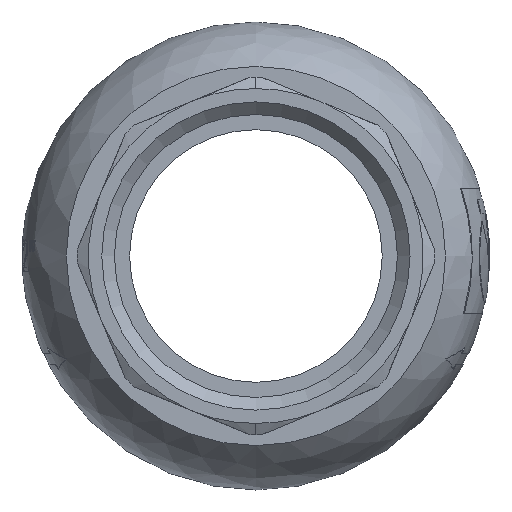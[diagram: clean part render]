
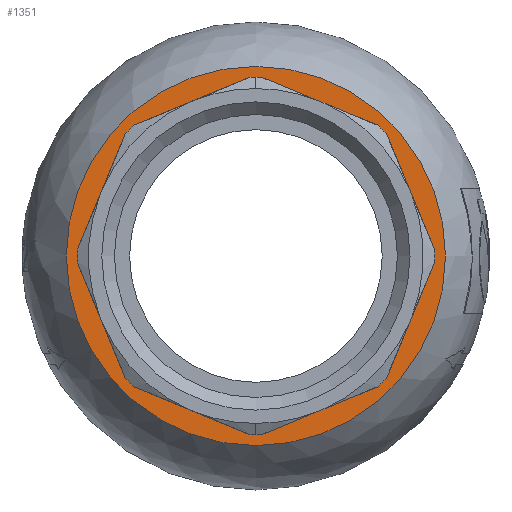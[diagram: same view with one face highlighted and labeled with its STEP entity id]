
A CAD part, left-side view. The second image highlights one B-rep face of the part: STEP entity #1351.
In plain terms, the highlighted planar face has unit normal (-1, 0, 0).
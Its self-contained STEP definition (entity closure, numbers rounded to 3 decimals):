
#1133=CARTESIAN_POINT('',(18.486,0.,30.017));
#1134=VERTEX_POINT('',#1133);
#1141=CARTESIAN_POINT('',(18.486,0.,-30.017));
#1142=VERTEX_POINT('',#1141);
#1143=CARTESIAN_POINT('',(18.486,0.,0.));
#1144=DIRECTION('',(1.,-0.,-0.));
#1145=DIRECTION('',(0.,0.,1.));
#1146=AXIS2_PLACEMENT_3D('',#1143,#1144,#1145);
#1147=CIRCLE('',#1146,30.017);
#1148=EDGE_CURVE('',#1134,#1142,#1147,.T.);
#1150=CARTESIAN_POINT('',(18.486,0.,0.));
#1151=DIRECTION('',(1.,-0.,-0.));
#1152=DIRECTION('',(0.,0.,1.));
#1153=AXIS2_PLACEMENT_3D('',#1150,#1151,#1152);
#1154=CIRCLE('',#1153,30.017);
#1155=EDGE_CURVE('',#1142,#1134,#1154,.T.);
#1186=CARTESIAN_POINT('',(18.486,0.,30.017));
#1187=DIRECTION('',(-1.,0.,0.));
#1188=DIRECTION('',(0.,-1.,0.));
#1189=AXIS2_PLACEMENT_3D('',#1186,#1187,#1188);
#1190=PLANE('',#1189);
#1191=ORIENTED_EDGE('',*,*,#1148,.F.);
#1192=ORIENTED_EDGE('',*,*,#1155,.F.);
#1193=EDGE_LOOP('',(#1191,#1192));
#1194=FACE_BOUND('',#1193,.T.);
#1195=CARTESIAN_POINT('',(18.486,-0.95,-28.29));
#1196=VERTEX_POINT('',#1195);
#1197=CARTESIAN_POINT('',(18.486,-0.,-28.306));
#1198=VERTEX_POINT('',#1197);
#1199=CARTESIAN_POINT('',(18.486,-0.95,-28.29));
#1200=CARTESIAN_POINT('',(18.486,-0.317,-28.311));
#1201=CARTESIAN_POINT('',(18.486,0.317,-28.311));
#1202=CARTESIAN_POINT('',(18.486,0.95,-28.29));
#1203=B_SPLINE_CURVE_WITH_KNOTS('',3,(#1199,#1200,#1201,#1202),.UNSPECIFIED.,.F.,.F.,(4,4),(268.077,271.923),.UNSPECIFIED.);
#1204=EDGE_CURVE('',#1196,#1198,#1203,.T.);
#1205=ORIENTED_EDGE('',*,*,#1204,.T.);
#1206=CARTESIAN_POINT('',(18.486,0.95,-28.29));
#1207=VERTEX_POINT('',#1206);
#1208=CARTESIAN_POINT('',(18.486,-0.95,-28.29));
#1209=CARTESIAN_POINT('',(18.486,-0.317,-28.311));
#1210=CARTESIAN_POINT('',(18.486,0.317,-28.311));
#1211=CARTESIAN_POINT('',(18.486,0.95,-28.29));
#1212=B_SPLINE_CURVE_WITH_KNOTS('',3,(#1208,#1209,#1210,#1211),.UNSPECIFIED.,.F.,.F.,(4,4),(268.077,271.923),.UNSPECIFIED.);
#1213=EDGE_CURVE('',#1198,#1207,#1212,.T.);
#1214=ORIENTED_EDGE('',*,*,#1213,.T.);
#1215=CARTESIAN_POINT('',(18.486,19.333,-20.676));
#1216=VERTEX_POINT('',#1215);
#1217=CARTESIAN_POINT('',(18.486,19.333,-20.676));
#1218=DIRECTION('',(-0.,-0.924,-0.383));
#1219=VECTOR('',#1218,19.898);
#1220=LINE('',#1217,#1219);
#1221=EDGE_CURVE('',#1216,#1207,#1220,.T.);
#1222=ORIENTED_EDGE('',*,*,#1221,.F.);
#1223=CARTESIAN_POINT('',(18.486,20.676,-19.333));
#1224=VERTEX_POINT('',#1223);
#1225=CARTESIAN_POINT('',(18.486,0.,0.));
#1226=DIRECTION('',(1.,-0.,-0.));
#1227=DIRECTION('',(0.,0.,1.));
#1228=AXIS2_PLACEMENT_3D('',#1225,#1226,#1227);
#1229=CIRCLE('',#1228,28.306);
#1230=EDGE_CURVE('',#1216,#1224,#1229,.T.);
#1231=ORIENTED_EDGE('',*,*,#1230,.T.);
#1232=CARTESIAN_POINT('',(18.486,28.29,-0.95));
#1233=VERTEX_POINT('',#1232);
#1234=CARTESIAN_POINT('',(18.486,28.29,-0.95));
#1235=DIRECTION('',(-0.,-0.383,-0.924));
#1236=VECTOR('',#1235,19.898);
#1237=LINE('',#1234,#1236);
#1238=EDGE_CURVE('',#1233,#1224,#1237,.T.);
#1239=ORIENTED_EDGE('',*,*,#1238,.F.);
#1240=CARTESIAN_POINT('',(18.486,28.29,0.95));
#1241=VERTEX_POINT('',#1240);
#1242=CARTESIAN_POINT('',(18.486,0.,0.));
#1243=DIRECTION('',(1.,-0.,-0.));
#1244=DIRECTION('',(0.,0.,1.));
#1245=AXIS2_PLACEMENT_3D('',#1242,#1243,#1244);
#1246=CIRCLE('',#1245,28.306);
#1247=EDGE_CURVE('',#1233,#1241,#1246,.T.);
#1248=ORIENTED_EDGE('',*,*,#1247,.T.);
#1249=CARTESIAN_POINT('',(18.486,20.676,19.333));
#1250=VERTEX_POINT('',#1249);
#1251=CARTESIAN_POINT('',(18.486,20.676,19.333));
#1252=DIRECTION('',(-0.,0.383,-0.924));
#1253=VECTOR('',#1252,19.898);
#1254=LINE('',#1251,#1253);
#1255=EDGE_CURVE('',#1250,#1241,#1254,.T.);
#1256=ORIENTED_EDGE('',*,*,#1255,.F.);
#1257=CARTESIAN_POINT('',(18.486,19.333,20.676));
#1258=VERTEX_POINT('',#1257);
#1259=CARTESIAN_POINT('',(18.486,0.,0.));
#1260=DIRECTION('',(1.,-0.,-0.));
#1261=DIRECTION('',(0.,0.,1.));
#1262=AXIS2_PLACEMENT_3D('',#1259,#1260,#1261);
#1263=CIRCLE('',#1262,28.306);
#1264=EDGE_CURVE('',#1250,#1258,#1263,.T.);
#1265=ORIENTED_EDGE('',*,*,#1264,.T.);
#1266=CARTESIAN_POINT('',(18.486,0.95,28.29));
#1267=VERTEX_POINT('',#1266);
#1268=CARTESIAN_POINT('',(18.486,0.95,28.29));
#1269=DIRECTION('',(-0.,0.924,-0.383));
#1270=VECTOR('',#1269,19.898);
#1271=LINE('',#1268,#1270);
#1272=EDGE_CURVE('',#1267,#1258,#1271,.T.);
#1273=ORIENTED_EDGE('',*,*,#1272,.F.);
#1274=CARTESIAN_POINT('',(18.486,0.,28.306));
#1275=VERTEX_POINT('',#1274);
#1276=CARTESIAN_POINT('',(18.486,0.95,28.29));
#1277=CARTESIAN_POINT('',(18.486,0.317,28.311));
#1278=CARTESIAN_POINT('',(18.486,-0.317,28.311));
#1279=CARTESIAN_POINT('',(18.486,-0.95,28.29));
#1280=B_SPLINE_CURVE_WITH_KNOTS('',3,(#1276,#1277,#1278,#1279),.UNSPECIFIED.,.F.,.F.,(4,4),(88.077,91.923),.UNSPECIFIED.);
#1281=EDGE_CURVE('',#1267,#1275,#1280,.T.);
#1282=ORIENTED_EDGE('',*,*,#1281,.T.);
#1283=CARTESIAN_POINT('',(18.486,-0.95,28.29));
#1284=VERTEX_POINT('',#1283);
#1285=CARTESIAN_POINT('',(18.486,0.95,28.29));
#1286=CARTESIAN_POINT('',(18.486,0.317,28.311));
#1287=CARTESIAN_POINT('',(18.486,-0.317,28.311));
#1288=CARTESIAN_POINT('',(18.486,-0.95,28.29));
#1289=B_SPLINE_CURVE_WITH_KNOTS('',3,(#1285,#1286,#1287,#1288),.UNSPECIFIED.,.F.,.F.,(4,4),(88.077,91.923),.UNSPECIFIED.);
#1290=EDGE_CURVE('',#1275,#1284,#1289,.T.);
#1291=ORIENTED_EDGE('',*,*,#1290,.T.);
#1292=CARTESIAN_POINT('',(18.486,-19.333,20.676));
#1293=VERTEX_POINT('',#1292);
#1294=CARTESIAN_POINT('',(18.486,-19.333,20.676));
#1295=DIRECTION('',(0.,0.924,0.383));
#1296=VECTOR('',#1295,19.898);
#1297=LINE('',#1294,#1296);
#1298=EDGE_CURVE('',#1293,#1284,#1297,.T.);
#1299=ORIENTED_EDGE('',*,*,#1298,.F.);
#1300=CARTESIAN_POINT('',(18.486,-20.676,19.333));
#1301=VERTEX_POINT('',#1300);
#1302=CARTESIAN_POINT('',(18.486,0.,0.));
#1303=DIRECTION('',(1.,-0.,-0.));
#1304=DIRECTION('',(0.,0.,1.));
#1305=AXIS2_PLACEMENT_3D('',#1302,#1303,#1304);
#1306=CIRCLE('',#1305,28.306);
#1307=EDGE_CURVE('',#1293,#1301,#1306,.T.);
#1308=ORIENTED_EDGE('',*,*,#1307,.T.);
#1309=CARTESIAN_POINT('',(18.486,-28.29,0.95));
#1310=VERTEX_POINT('',#1309);
#1311=CARTESIAN_POINT('',(18.486,-28.29,0.95));
#1312=DIRECTION('',(0.,0.383,0.924));
#1313=VECTOR('',#1312,19.898);
#1314=LINE('',#1311,#1313);
#1315=EDGE_CURVE('',#1310,#1301,#1314,.T.);
#1316=ORIENTED_EDGE('',*,*,#1315,.F.);
#1317=CARTESIAN_POINT('',(18.486,-28.29,-0.95));
#1318=VERTEX_POINT('',#1317);
#1319=CARTESIAN_POINT('',(18.486,0.,0.));
#1320=DIRECTION('',(1.,-0.,-0.));
#1321=DIRECTION('',(0.,0.,1.));
#1322=AXIS2_PLACEMENT_3D('',#1319,#1320,#1321);
#1323=CIRCLE('',#1322,28.306);
#1324=EDGE_CURVE('',#1310,#1318,#1323,.T.);
#1325=ORIENTED_EDGE('',*,*,#1324,.T.);
#1326=CARTESIAN_POINT('',(18.486,-20.676,-19.333));
#1327=VERTEX_POINT('',#1326);
#1328=CARTESIAN_POINT('',(18.486,-20.676,-19.333));
#1329=DIRECTION('',(0.,-0.383,0.924));
#1330=VECTOR('',#1329,19.898);
#1331=LINE('',#1328,#1330);
#1332=EDGE_CURVE('',#1327,#1318,#1331,.T.);
#1333=ORIENTED_EDGE('',*,*,#1332,.F.);
#1334=CARTESIAN_POINT('',(18.486,-19.333,-20.676));
#1335=VERTEX_POINT('',#1334);
#1336=CARTESIAN_POINT('',(18.486,0.,0.));
#1337=DIRECTION('',(1.,-0.,-0.));
#1338=DIRECTION('',(0.,0.,1.));
#1339=AXIS2_PLACEMENT_3D('',#1336,#1337,#1338);
#1340=CIRCLE('',#1339,28.306);
#1341=EDGE_CURVE('',#1327,#1335,#1340,.T.);
#1342=ORIENTED_EDGE('',*,*,#1341,.T.);
#1343=CARTESIAN_POINT('',(18.486,-0.95,-28.29));
#1344=DIRECTION('',(0.,-0.924,0.383));
#1345=VECTOR('',#1344,19.898);
#1346=LINE('',#1343,#1345);
#1347=EDGE_CURVE('',#1196,#1335,#1346,.T.);
#1348=ORIENTED_EDGE('',*,*,#1347,.F.);
#1349=EDGE_LOOP('',(#1205,#1214,#1222,#1231,#1239,#1248,#1256,#1265,#1273,#1282,#1291,#1299,#1308,#1316,#1325,#1333,#1342,#1348));
#1350=FACE_BOUND('',#1349,.T.);
#1351=ADVANCED_FACE('',(#1194,#1350),#1190,.T.);
